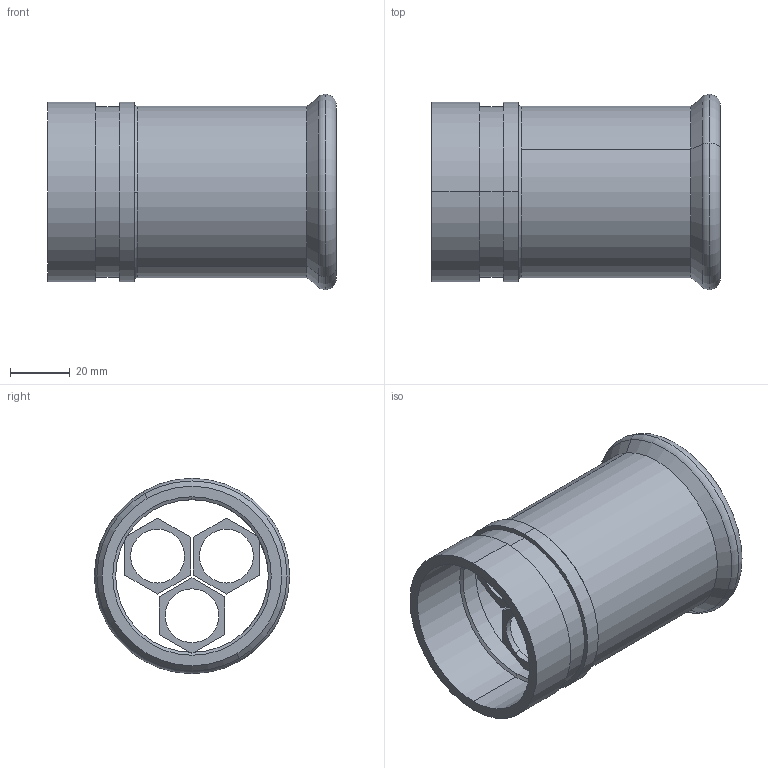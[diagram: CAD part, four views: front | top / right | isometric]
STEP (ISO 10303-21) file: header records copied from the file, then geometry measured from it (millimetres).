
FILE_DESCRIPTION(('OneSpaceDesigner STEP Export'),'2;1');
FILE_NAME('R2748 60x54.stp','2010-06-10T14:52:46',(''),(''),'OneSpace Designer STEP processor for AP214 (Solid Model)','OneSpace Modeling 15.00A 14-Mar-2007 (C) CoCreate Software GmbH','');
FILE_SCHEMA(('AUTOMOTIVE_DESIGN { 1 0 10303 214 1 1 1 1 }'));
Length unit declared in the file: millimetre
Products named in the file (2): R2748_60x54
Assembly tree (1 placements, depth 2):
  R2748_60x54
    R2748_60x54
Bounding box: 96.5 x 65.3 x 65.3 mm (x, y, z)
Volume: 39765.6 mm3; surface area: 38670.3 mm2
Topology: 1 solids, 1 shells, 69 faces, 181 edges, 122 vertices
Faces by surface type: plane 34, cylinder 25, torus 6, cone 4
Entity records: 1874 total; most frequent: ORIENTED_EDGE 362, CARTESIAN_POINT 302, DIRECTION 265, EDGE_CURVE 181, VERTEX_POINT 122, VECTOR 95, LINE 95, AXIS2_PLACEMENT_3D 85
